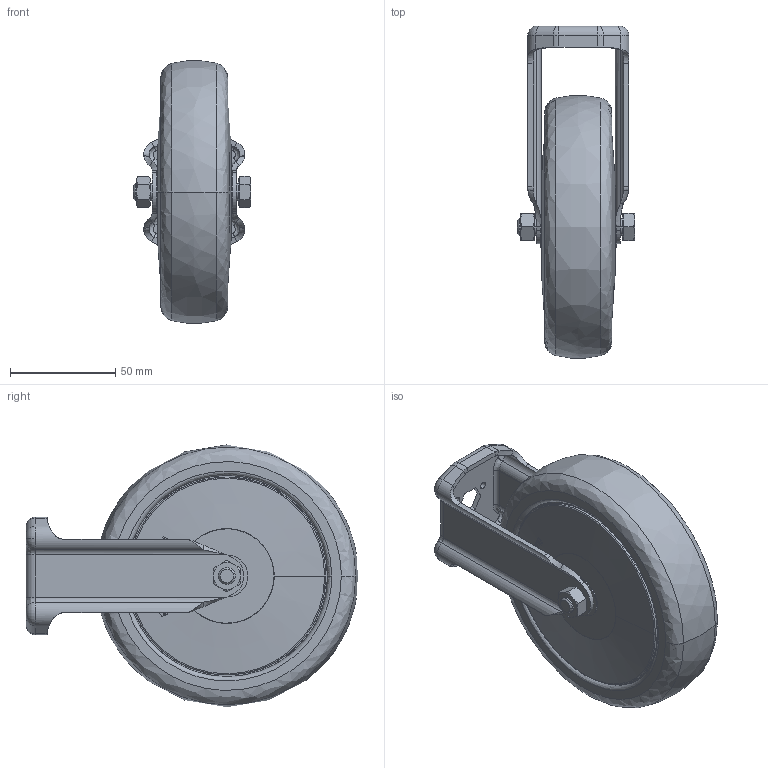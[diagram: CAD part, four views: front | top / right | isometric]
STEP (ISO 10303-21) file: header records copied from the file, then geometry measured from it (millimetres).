
FILE_DESCRIPTION (( 'STEP AP203' ), '1' );
FILE_NAME ('10089_BOC125ANT.STEP', '2018-03-29T06:41:01', ( '' ), ( '' ), 'SwSTEP 2.0', 'SolidWorks 2017', '' );
FILE_SCHEMA (( 'CONFIG_CONTROL_DESIGN' ));
Products named in the file (1): 10089_BOC125ANT
Bounding box: 55.8 x 157.86 x 124.71 mm (x, y, z)
Volume: 414537 mm3; surface area: 59730.9 mm2
Topology: 3 solids, 3 shells, 973 faces, 2518 edges, 1631 vertices
Faces by surface type: plane 506, bspline 300, cone 85, cylinder 68, torus 14
Entity records: 48670 total; most frequent: CARTESIAN_POINT 27749, ORIENTED_EDGE 5036, DIRECTION 3006, EDGE_CURVE 2518, VERTEX_POINT 1631, LINE 1220, VECTOR 1220, EDGE_LOOP 1063
